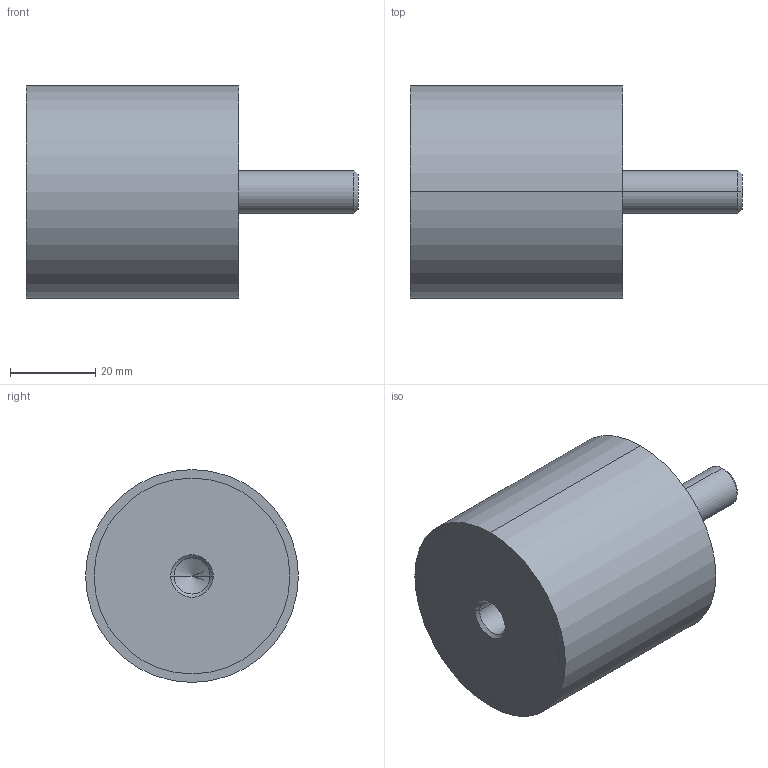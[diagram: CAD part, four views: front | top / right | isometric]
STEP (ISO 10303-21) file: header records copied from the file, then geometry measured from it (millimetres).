
FILE_DESCRIPTION (( 'STEP AP214' ), '1' );
FILE_NAME ('351-50-50-M10-ES-55.step', '2025-07-23T09:51:05', ( '' ), ( '' ), 'SwSTEP 2.0', 'SolidWorks 2022', '' );
FILE_SCHEMA (( 'AUTOMOTIVE_DESIGN' ));
Length unit declared in the file: millimetre
Products named in the file (1): 351-50-50-M10-ES-55
Bounding box: 78 x 50 x 50 mm (x, y, z)
Volume: 99640.9 mm3; surface area: 12941.2 mm2
Topology: 1 solids, 1 shells, 24 faces, 48 edges, 29 vertices
Faces by surface type: cylinder 12, cone 6, plane 6
Entity records: 740 total; most frequent: DIRECTION 124, CARTESIAN_POINT 100, ORIENTED_EDGE 92, AXIS2_PLACEMENT_3D 53, EDGE_CURVE 46, EDGE_LOOP 29, VERTEX_POINT 29, CIRCLE 28
